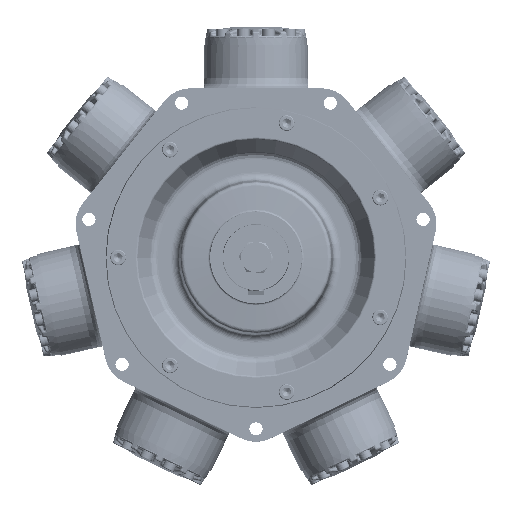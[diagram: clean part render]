
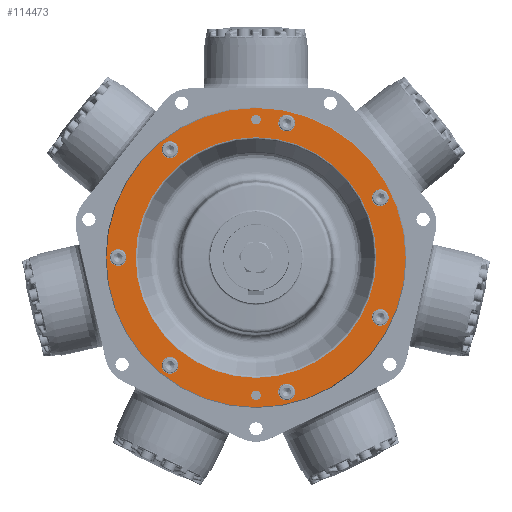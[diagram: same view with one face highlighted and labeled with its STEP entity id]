
A CAD part, top view. The second image highlights one B-rep face of the part: STEP entity #114473.
In plain terms, the highlighted planar face has unit normal (0, 0, 1).
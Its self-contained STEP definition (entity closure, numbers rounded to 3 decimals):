
#1442=FACE_BOUND('',#32902,.T.);
#1443=FACE_BOUND('',#32903,.T.);
#1444=FACE_BOUND('',#32904,.T.);
#1445=FACE_BOUND('',#32905,.T.);
#1446=FACE_BOUND('',#32906,.T.);
#1447=FACE_BOUND('',#32907,.T.);
#1448=FACE_BOUND('',#32908,.T.);
#1449=FACE_BOUND('',#32909,.T.);
#1450=FACE_BOUND('',#32910,.T.);
#1451=FACE_BOUND('',#32911,.T.);
#3665=PLANE('',#122669);
#20214=CIRCLE('',#122642,7.176);
#20216=CIRCLE('',#122645,7.176);
#20218=CIRCLE('',#122648,12.7);
#20220=CIRCLE('',#122651,12.7);
#20221=CIRCLE('',#122653,12.7);
#20223=CIRCLE('',#122656,12.7);
#20224=CIRCLE('',#122658,12.7);
#20225=CIRCLE('',#122660,12.7);
#20227=CIRCLE('',#122663,12.7);
#20228=CIRCLE('',#122665,227.279);
#20231=CIRCLE('',#122670,182.808);
#25886=FACE_OUTER_BOUND('',#32901,.T.);
#32901=EDGE_LOOP('',(#89268));
#32902=EDGE_LOOP('',(#89269));
#32903=EDGE_LOOP('',(#89270));
#32904=EDGE_LOOP('',(#89271));
#32905=EDGE_LOOP('',(#89272));
#32906=EDGE_LOOP('',(#89273));
#32907=EDGE_LOOP('',(#89274));
#32908=EDGE_LOOP('',(#89275));
#32909=EDGE_LOOP('',(#89276));
#32910=EDGE_LOOP('',(#89277));
#32911=EDGE_LOOP('',(#89278));
#47427=VERTEX_POINT('',#267174);
#47429=VERTEX_POINT('',#267180);
#47431=VERTEX_POINT('',#267186);
#47433=VERTEX_POINT('',#267192);
#47434=VERTEX_POINT('',#267196);
#47436=VERTEX_POINT('',#267202);
#47437=VERTEX_POINT('',#267206);
#47438=VERTEX_POINT('',#267210);
#47440=VERTEX_POINT('',#267216);
#47441=VERTEX_POINT('',#267220);
#47444=VERTEX_POINT('',#267230);
#61910=EDGE_CURVE('',#47427,#47427,#20214,.T.);
#61913=EDGE_CURVE('',#47429,#47429,#20216,.T.);
#61917=EDGE_CURVE('',#47431,#47431,#20218,.T.);
#61920=EDGE_CURVE('',#47433,#47433,#20220,.T.);
#61922=EDGE_CURVE('',#47434,#47434,#20221,.T.);
#61925=EDGE_CURVE('',#47436,#47436,#20223,.T.);
#61927=EDGE_CURVE('',#47437,#47437,#20224,.T.);
#61929=EDGE_CURVE('',#47438,#47438,#20225,.T.);
#61932=EDGE_CURVE('',#47440,#47440,#20227,.T.);
#61933=EDGE_CURVE('',#47441,#47441,#20228,.T.);
#61938=EDGE_CURVE('',#47444,#47444,#20231,.T.);
#89268=ORIENTED_EDGE('',*,*,#61933,.F.);
#89269=ORIENTED_EDGE('',*,*,#61910,.T.);
#89270=ORIENTED_EDGE('',*,*,#61913,.T.);
#89271=ORIENTED_EDGE('',*,*,#61917,.T.);
#89272=ORIENTED_EDGE('',*,*,#61920,.T.);
#89273=ORIENTED_EDGE('',*,*,#61922,.T.);
#89274=ORIENTED_EDGE('',*,*,#61925,.T.);
#89275=ORIENTED_EDGE('',*,*,#61927,.T.);
#89276=ORIENTED_EDGE('',*,*,#61929,.T.);
#89277=ORIENTED_EDGE('',*,*,#61932,.T.);
#89278=ORIENTED_EDGE('',*,*,#61938,.F.);
#114473=ADVANCED_FACE('',(#25886,#1442,#1443,#1444,#1445,#1446,#1447,#1448,
#1449,#1450,#1451),#3665,.T.);
#122642=AXIS2_PLACEMENT_3D('',#267175,#140455,#140456);
#122645=AXIS2_PLACEMENT_3D('',#267181,#140462,#140463);
#122648=AXIS2_PLACEMENT_3D('',#267188,#140470,#140471);
#122651=AXIS2_PLACEMENT_3D('',#267194,#140477,#140478);
#122653=AXIS2_PLACEMENT_3D('',#267198,#140482,#140483);
#122656=AXIS2_PLACEMENT_3D('',#267204,#140489,#140490);
#122658=AXIS2_PLACEMENT_3D('',#267208,#140494,#140495);
#122660=AXIS2_PLACEMENT_3D('',#267212,#140499,#140500);
#122663=AXIS2_PLACEMENT_3D('',#267218,#140506,#140507);
#122665=AXIS2_PLACEMENT_3D('',#267221,#140510,#140511);
#122669=AXIS2_PLACEMENT_3D('',#267229,#140520,#140521);
#122670=AXIS2_PLACEMENT_3D('',#267231,#140522,#140523);
#140455=DIRECTION('center_axis',(0.,0.,
-1.));
#140456=DIRECTION('ref_axis',(1.,0.,0.));
#140462=DIRECTION('center_axis',(0.,0.,
-1.));
#140463=DIRECTION('ref_axis',(1.,0.,0.));
#140470=DIRECTION('center_axis',(0.,0.,
-1.));
#140471=DIRECTION('ref_axis',(-0.623,0.782,0.));
#140477=DIRECTION('center_axis',(0.,0.,
-1.));
#140478=DIRECTION('ref_axis',(0.223,0.975,0.));
#140482=DIRECTION('center_axis',(0.,0.,
-1.));
#140483=DIRECTION('ref_axis',(0.901,0.434,0.));
#140489=DIRECTION('center_axis',(0.,0.,
-1.));
#140490=DIRECTION('ref_axis',(0.901,-0.434,0.));
#140494=DIRECTION('center_axis',(0.,0.,
-1.));
#140495=DIRECTION('ref_axis',(0.223,-0.975,0.));
#140499=DIRECTION('center_axis',(0.,0.,
-1.));
#140500=DIRECTION('ref_axis',(-0.623,-0.782,0.));
#140506=DIRECTION('center_axis',(0.,0.,
-1.));
#140507=DIRECTION('ref_axis',(-1.,0.,0.));
#140510=DIRECTION('center_axis',(0.,0.,
-1.));
#140511=DIRECTION('ref_axis',(0.,1.,0.));
#140520=DIRECTION('center_axis',(0.,0.,
1.));
#140521=DIRECTION('ref_axis',(0.,1.,0.));
#140522=DIRECTION('center_axis',(0.,0.,
1.));
#140523=DIRECTION('ref_axis',(1.,0.,0.));
#267174=CARTESIAN_POINT('',(-7.175,209.55,123.104));
#267175=CARTESIAN_POINT('Origin',(0.,209.55,123.104));
#267180=CARTESIAN_POINT('',(-7.176,-209.55,123.104));
#267181=CARTESIAN_POINT('Origin',(0.,-209.55,123.104));
#267186=CARTESIAN_POINT('',(-122.734,153.904,123.104));
#267188=CARTESIAN_POINT('Origin',(-130.652,163.833,123.104));
#267192=CARTESIAN_POINT('',(43.803,191.915,123.104));
#267194=CARTESIAN_POINT('Origin',(46.629,204.296,123.104));
#267196=CARTESIAN_POINT('',(177.356,85.41,123.104));
#267198=CARTESIAN_POINT('Origin',(188.798,90.92,123.104));
#267202=CARTESIAN_POINT('',(177.356,-85.41,123.104));
#267204=CARTESIAN_POINT('Origin',(188.798,-90.92,123.104));
#267206=CARTESIAN_POINT('',(43.803,-191.915,123.104));
#267208=CARTESIAN_POINT('Origin',(46.629,-204.296,123.104));
#267210=CARTESIAN_POINT('',(-122.734,-153.904,123.104));
#267212=CARTESIAN_POINT('Origin',(-130.652,-163.833,123.104));
#267216=CARTESIAN_POINT('',(-196.85,0.,123.104));
#267218=CARTESIAN_POINT('Origin',(-209.55,0.,123.104));
#267220=CARTESIAN_POINT('',(0.,-227.279,123.104));
#267221=CARTESIAN_POINT('Origin',(0.,0.,
123.104));
#267229=CARTESIAN_POINT('Origin',(-206.375,0.,123.104));
#267230=CARTESIAN_POINT('',(0.,-182.808,123.104));
#267231=CARTESIAN_POINT('Origin',(0.,0.,
123.104));
